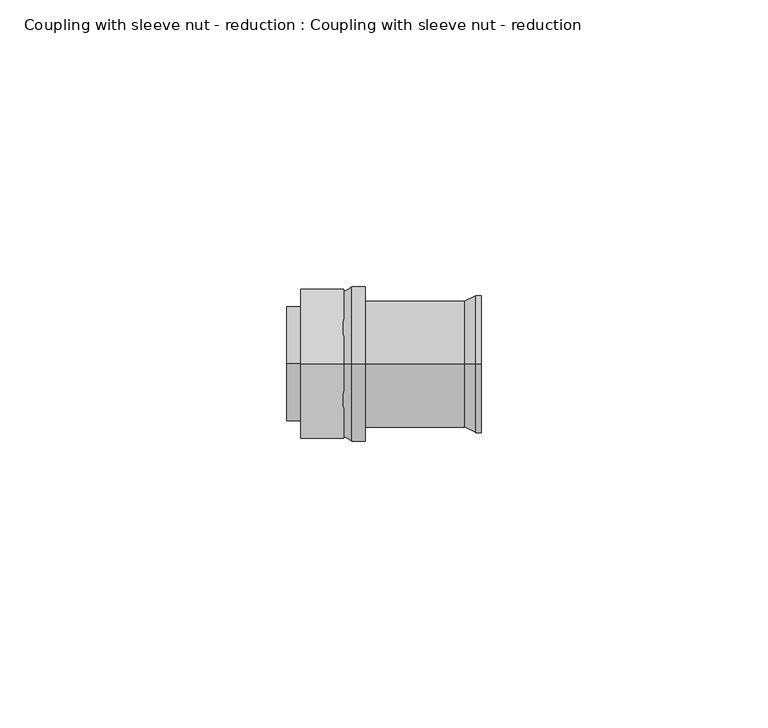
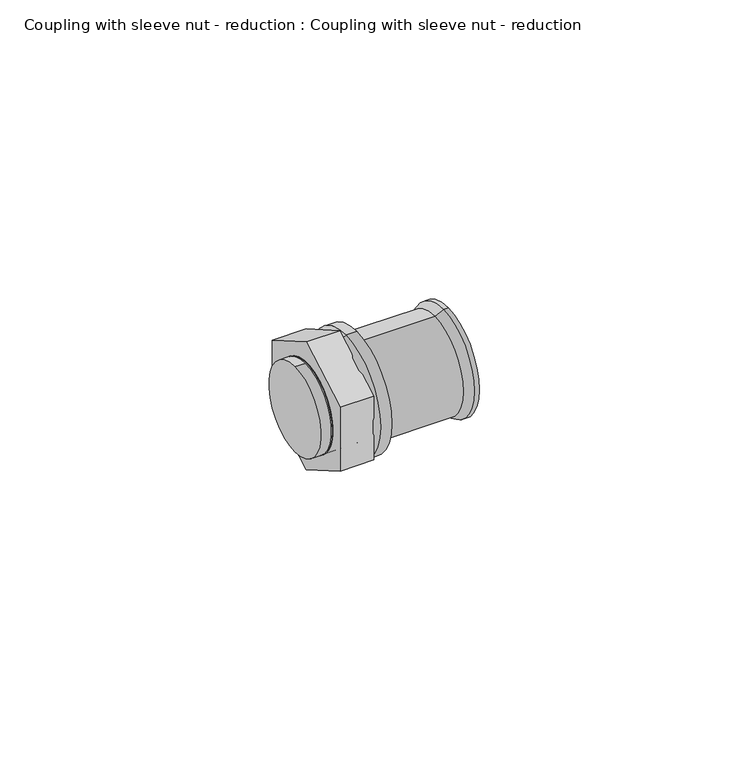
"""IFC4 building model written with IfcOpenShell, lengths in millimetres: pipe fitting geometry, Coupling with sleeve nut - reduction : Coupling with sleeve nut - reduction."""

from ifc_helpers import new_model, si_unit, point, frame, origin, origin_2d, place, context, project, spatial, polyline, circle_curve, trimmed, segment, composite_curve, outline, extrude, source, transform, mapped, element, save
from ifc_brep_helpers import plane_surface, cylinder_surface, revolved_surface, advanced_brep


def coupling_with_sleeve_nut_reduction_coupling_with_sleeve_nut_37aa6781(model_context):
    return source(origin(), model_context, "Body", "SolidModel", [
        advanced_brep(
        [(2.75, 0.0, 0.0), (2.75, 0.0, 12.1432269), (2.75, 0.0, -12.1432269), (7.45, 0.0, -13.5), (7.45, 0.0, 13.5), (7.45, 0.0, 0.0), (5.1, 0.0, -13.5), (5.1, 0.0, 13.5)],
        [
            (0, 1),
            (1, 2, circle_curve(frame((2.75, 0.0, 0.0), z_axis=(-1.0, 0.0, 0.0), x_axis=(0.0, 0.0, 1.0)), 12.1432269)),
            (2, 0),
            (2, 1, circle_curve(frame((2.75, 0.0, 0.0), z_axis=(-1.0, 0.0, 0.0), x_axis=(0.0, 0.0, 1.0)), 12.1432269)),
            (3, 4, circle_curve(frame((7.45, 0.0, 0.0), z_axis=(1.0, 0.0, 0.0), x_axis=(0.0, 0.0, 1.0)), 13.5)),
            (4, 5),
            (5, 3),
            (4, 3, circle_curve(frame((7.45, 0.0, 0.0), z_axis=(1.0, 0.0, 0.0), x_axis=(0.0, 0.0, 1.0)), 13.5)),
            (6, 7, circle_curve(frame((5.1, 0.0, 0.0), z_axis=(1.0, 0.0, 0.0), x_axis=(0.0, 0.0, 1.0)), 13.5)),
            (7, 4),
            (3, 6),
            (7, 6, circle_curve(frame((5.1, 0.0, 0.0), z_axis=(1.0, 0.0, 0.0), x_axis=(0.0, 0.0, 1.0)), 13.5)),
            (1, 7),
            (6, 2),
        ],
        [
            plane_surface(frame((2.75, 0.0, 0.0), z_axis=(-1.0, 0.0, 0.0), x_axis=(0.0, 0.0, 1.0))),
            plane_surface(frame((7.45, 0.0, 0.0), z_axis=(1.0, 0.0, 0.0), x_axis=(0.0, 0.0, 1.0))),
            cylinder_surface(frame((3.75, 0.0, 0.0), z_axis=(-1.0, 0.0, 0.0), x_axis=(0.0, 0.0, 1.0)), 13.5),
            revolved_surface(polyline([(5.1, 0.0, 13.5), (2.75, 0.0, 12.1432269)]), (3.75, 0.0, 0.0), (-1.0, 0.0, 0.0)),
        ],
        [
            (0, [[1, 2, 3]]),
            (0, [[-3, 4, -1]]),
            (1, [[5, 6, 7]]),
            (1, [[8, -7, -6]]),
            (2, [[9, 10, -5, 11]]),
            (2, [[12, -11, -8, -10]]),
            (3, [[-2, 13, -9, 14]]),
            (3, [[-4, -14, -12, -13]]),
        ],
    ),
        advanced_brep(
        [(7.45, 0.0, -11.0), (7.45, 0.0, 11.0), (24.75, 0.0, 11.0), (24.75, 0.0, -11.0), (27.75, 0.0, -12.0), (27.75, 0.0, 12.0), (27.75, 0.0, 0.0), (7.45, 0.0, 0.0), (26.75, 0.0, -12.0), (26.75, 0.0, 12.0)],
        [
            (0, 1, circle_curve(frame((7.45, 0.0, 0.0), z_axis=(1.0, 0.0, 0.0), x_axis=(0.0, 0.0, 1.0)), 11.0)),
            (1, 2),
            (2, 3, circle_curve(frame((24.75, 0.0, 0.0), z_axis=(-1.0, 0.0, 0.0), x_axis=(0.0, 0.0, 1.0)), 11.0)),
            (3, 0),
            (1, 0, circle_curve(frame((7.45, 0.0, 0.0), z_axis=(1.0, 0.0, 0.0), x_axis=(0.0, 0.0, 1.0)), 11.0)),
            (3, 2, circle_curve(frame((24.75, 0.0, 0.0), z_axis=(-1.0, 0.0, 0.0), x_axis=(0.0, 0.0, 1.0)), 11.0)),
            (4, 5, circle_curve(frame((27.75, 0.0, 0.0), z_axis=(1.0, 0.0, 0.0), x_axis=(0.0, 0.0, 1.0)), 12.0)),
            (5, 6),
            (6, 4),
            (5, 4, circle_curve(frame((27.75, 0.0, 0.0), z_axis=(1.0, 0.0, 0.0), x_axis=(0.0, 0.0, 1.0)), 12.0)),
            (7, 1),
            (0, 7),
            (8, 9, circle_curve(frame((26.75, 0.0, 0.0), z_axis=(1.0, 0.0, 0.0), x_axis=(0.0, 0.0, 1.0)), 12.0)),
            (9, 5),
            (4, 8),
            (9, 8, circle_curve(frame((26.75, 0.0, 0.0), z_axis=(1.0, 0.0, 0.0), x_axis=(0.0, 0.0, 1.0)), 12.0)),
            (2, 9),
            (8, 3),
        ],
        [
            cylinder_surface(frame((-1908.0538476, 0.0, 0.0), z_axis=(-1.0, 0.0, 0.0), x_axis=(0.0, 0.0, 1.0)), 11.0),
            plane_surface(frame((27.75, 0.0, 0.0), z_axis=(1.0, 0.0, 0.0), x_axis=(0.0, 0.0, 1.0))),
            plane_surface(frame((7.45, 0.0, 0.0), z_axis=(-1.0, 0.0, 0.0), x_axis=(0.0, 0.0, 1.0))),
            cylinder_surface(frame((-1908.0538476, 0.0, 0.0), z_axis=(-1.0, 0.0, 0.0), x_axis=(0.0, 0.0, 1.0)), 12.0),
            revolved_surface(polyline([(26.75, 0.0, 12.0), (24.75, 0.0, 11.0)]), (-1908.0538476, 0.0, 0.0), (-1.0, 0.0, 0.0)),
        ],
        [
            (0, [[1, 2, 3, 4]]),
            (0, [[5, -4, 6, -2]]),
            (1, [[7, 8, 9]]),
            (1, [[10, -9, -8]]),
            (2, [[11, -1, 12]]),
            (2, [[-12, -5, -11]]),
            (3, [[13, 14, -7, 15]]),
            (3, [[16, -15, -10, -14]]),
            (4, [[-3, 17, -13, 18]]),
            (4, [[-6, -18, -16, -17]]),
        ],
    ),
        advanced_brep(
        [(-3.75, -10.0, 0.0), (-3.75, 10.0, 0.0), (0.0, -10.0, 0.0), (0.0, 10.0, 0.0), (3.75, -10.0, 0.0), (3.75, 10.0, 0.0)],
        [
            (0, 1, circle_curve(frame((-3.75, 0.0, 0.0), z_axis=(-1.0, 0.0, 0.0), x_axis=(0.0, 1.0, 0.0)), 10.0)),
            (1, 0, circle_curve(frame((-3.75, 0.0, 0.0), z_axis=(-1.0, 0.0, 0.0), x_axis=(0.0, 1.0, 0.0)), 10.0)),
            (0, 2),
            (2, 3, circle_curve(frame((0.0, 0.0, 0.0), z_axis=(-1.0, 0.0, 0.0), x_axis=(0.0, 1.0, 0.0)), 10.0)),
            (3, 1),
            (3, 2, circle_curve(frame((0.0, 0.0, 0.0), z_axis=(-1.0, 0.0, 0.0), x_axis=(0.0, 1.0, 0.0)), 10.0)),
            (4, 5, circle_curve(frame((3.75, 0.0, 0.0), z_axis=(1.0, 0.0, 0.0), x_axis=(0.0, 1.0, 0.0)), 10.0)),
            (5, 4, circle_curve(frame((3.75, 0.0, 0.0), z_axis=(1.0, 0.0, 0.0), x_axis=(0.0, 1.0, 0.0)), 10.0)),
            (2, 4),
            (5, 3),
        ],
        [
            plane_surface(frame((-3.75, 0.0, 0.0), z_axis=(-1.0, 0.0, 0.0), x_axis=(0.0, 0.0, 1.0))),
            cylinder_surface(frame((-3.75, 0.0, 0.0), z_axis=(-1.0, 0.0, 0.0), x_axis=(0.0, 1.0, 0.0)), 10.0),
            plane_surface(frame((3.75, 0.0, 0.0), z_axis=(1.0, 0.0, 0.0), x_axis=(0.0, 0.0, 1.0))),
            cylinder_surface(frame((0.0, 0.0, 0.0), z_axis=(-1.0, 0.0, 0.0), x_axis=(0.0, 1.0, 0.0)), 10.0),
        ],
        [
            (0, [[1, 2]]),
            (1, [[-1, 3, 4, 5]]),
            (1, [[-2, -5, 6, -3]]),
            (2, [[7, 8]]),
            (3, [[-4, 9, -8, 10]]),
            (3, [[-6, -10, -7, -9]]),
        ],
    ),
        extrude(outline(composite_curve([segment(trimmed(circle_curve(origin_2d(), 10.0), [point((0.0, -10.0))], [point((0.0, 10.0))], False, "CARTESIAN"), True, "CONTINUOUS"), segment(trimmed(circle_curve(origin_2d(), 10.0), [point((0.0, 10.0))], [point((0.0, -10.0))], False, "CARTESIAN"), True, "CONTINUOUS")], self_intersect=False)), frame((-6.25, 0.0, 0.0), z_axis=(1.0, 0.0, 0.0), x_axis=(0.0, 1.0, 0.0)), (0.0, 0.0, 1.0), 2.5),
        extrude(outline(polyline([(0.0, 15.011107), (13.0, 7.5055535), (13.0, -7.5055535), (0.0, -15.011107), (-13.0, -7.5055535), (-13.0, 7.5055535), (0.0, 15.011107)])), frame((-3.75, 0.0, 0.0), z_axis=(1.0, 0.0, 0.0), x_axis=(0.0, 1.0, 0.0)), (0.0, 0.0, 1.0), 7.5),
    ])


if __name__ == "__main__":
    model = new_model("IFC4")
    model_context = context("Model", 3, world=origin())
    ifc_project = project(units=[si_unit("LENGTHUNIT", "METRE", prefix="MILLI")], contexts=[model_context])
    site = spatial("IfcSite", under=ifc_project)
    building = spatial("IfcBuilding", under=site)
    placement = place(None, origin())
    coupling_with_sleeve_nut_reduction_coupling_with_sleeve_nut_shape = coupling_with_sleeve_nut_reduction_coupling_with_sleeve_nut_37aa6781(model_context)
    element("IfcPipeFitting", 1, ObjectType="Coupling with sleeve nut - reduction : Coupling with sleeve nut - reduction", at=placement, inside=building, context=model_context, shape_type="MappedRepresentation", body=[
        mapped(coupling_with_sleeve_nut_reduction_coupling_with_sleeve_nut_shape, transform((0.0, 0.0, 0.0), x_axis=(1.0, 0.0, 0.0), y_axis=(0.0, 1.0, 0.0), z_axis=(0.0, 0.0, 1.0))),
    ])
    save(model, "model.ifc")
